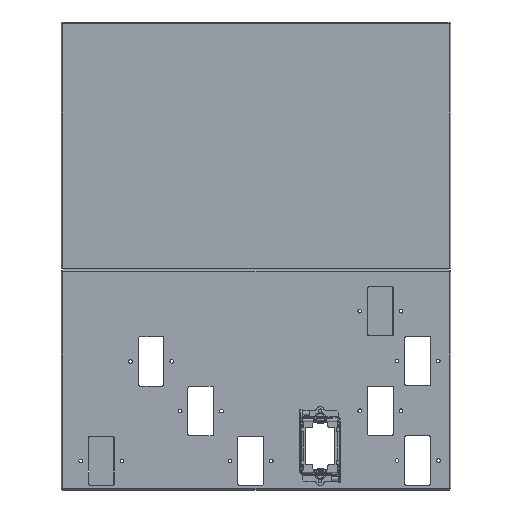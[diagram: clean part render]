
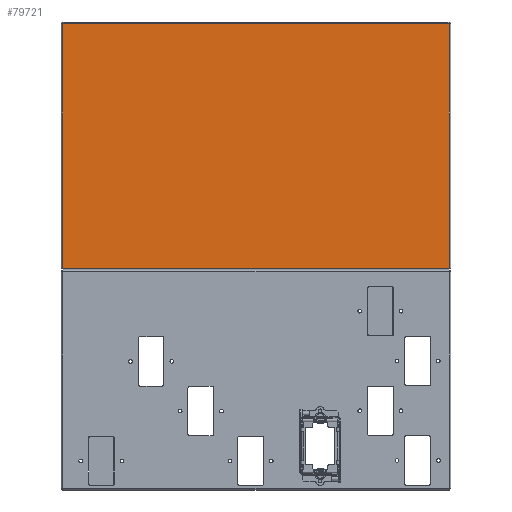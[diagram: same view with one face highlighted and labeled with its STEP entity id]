
A CAD part, top view. The second image highlights one B-rep face of the part: STEP entity #79721.
In plain terms, the highlighted planar face has unit normal (0, 0, 1).
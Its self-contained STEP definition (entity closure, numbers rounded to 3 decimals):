
#79056=CARTESIAN_POINT(' ',(-232.9,147.5,0.));
#79061=DIRECTION(' ',(0.,-1.,0.));
#79066=VECTOR(' ',#79061,1.);
#79071=LINE('',#79056,#79066);
#79076=CARTESIAN_POINT(' ',(-232.9,147.5,0.));
#79077=VERTEX_POINT(' ',#79076);
#79081=CARTESIAN_POINT(' ',(-232.9,-147.5,0.));
#79082=VERTEX_POINT(' ',#79081);
#79086=EDGE_CURVE(' ',#79077,#79082,#79071,.T.);
#79581=DIRECTION(' ',(0.,-0.,1.));
#79586=CARTESIAN_POINT(' ',(-232.9,-147.5,0.));
#79591=DIRECTION(' ',(1.,0.,-0.));
#79596=AXIS2_PLACEMENT_3D(' ',#79586,#79581,#79591);
#79601=PLANE('NONE',#79596);
#79606=ORIENTED_EDGE(' ',*,*,#79086,.T.);
#79611=CARTESIAN_POINT(' ',(-232.9,-147.5,0.));
#79616=DIRECTION(' ',(1.,0.,0.));
#79621=VECTOR(' ',#79616,1.);
#79626=LINE('',#79611,#79621);
#79631=CARTESIAN_POINT(' ',(232.9,-147.5,0.));
#79632=VERTEX_POINT(' ',#79631);
#79636=EDGE_CURVE(' ',#79082,#79632,#79626,.T.);
#79641=ORIENTED_EDGE(' ',*,*,#79636,.T.);
#79646=CARTESIAN_POINT(' ',(232.9,-147.5,0.));
#79651=DIRECTION(' ',(0.,1.,0.));
#79656=VECTOR(' ',#79651,1.);
#79661=LINE('',#79646,#79656);
#79666=CARTESIAN_POINT(' ',(232.9,147.5,0.));
#79667=VERTEX_POINT(' ',#79666);
#79671=EDGE_CURVE(' ',#79632,#79667,#79661,.T.);
#79676=ORIENTED_EDGE(' ',*,*,#79671,.T.);
#79681=CARTESIAN_POINT(' ',(232.9,147.5,0.));
#79686=DIRECTION(' ',(-1.,0.,0.));
#79691=VECTOR(' ',#79686,1.);
#79696=LINE('',#79681,#79691);
#79701=EDGE_CURVE(' ',#79667,#79077,#79696,.T.);
#79706=ORIENTED_EDGE(' ',*,*,#79701,.T.);
#79711=EDGE_LOOP(' ',(#79606,#79641,#79676,#79706));
#79716=FACE_OUTER_BOUND(' ',#79711,.T.);
#79721=ADVANCED_FACE('NONE',(#79716),#79601,.T.);
